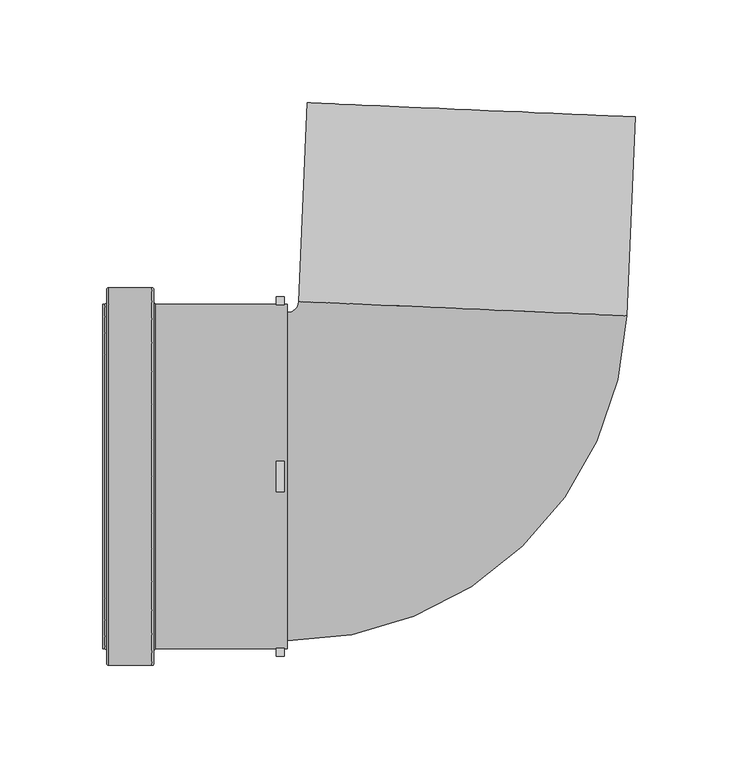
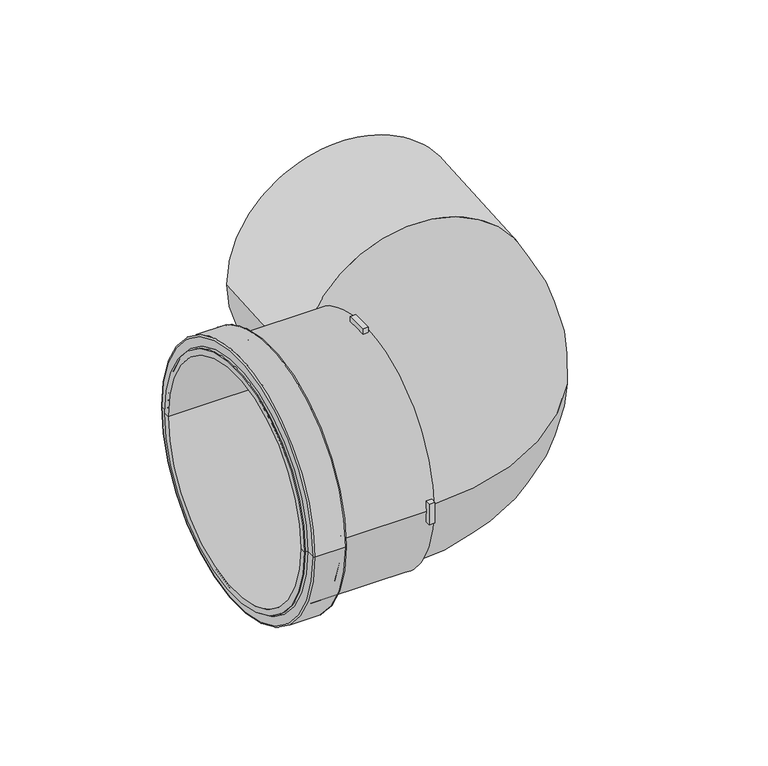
"""IFC4 building model written with IfcOpenShell, lengths in millimetres: pipe fitting geometry, MarleyPlumbingAndDrainage_PipeFitting_dBlue90DegreeBend_VKL : VKL-160-000-90D - 160mm - Blue."""

from ifc_helpers import new_model, si_unit, point, frame, origin, place, context, project, spatial, polyline, circle_curve, ellipse_curve, trimmed, source, transform, mapped, element, save
from ifc_brep_helpers import plane_surface, cylinder_surface, revolved_surface, advanced_brep


def pipe_fitting_395e146a(model_context):
    return source(origin(), model_context, "Body", "AdvancedBrep", [
        advanced_brep(
        [(-162.615232, 92.0, 0.0), (-162.615232, -92.0, 0.0), (-161.615232, -91.0, 0.0), (-161.615232, 91.0, 0.0), (-183.615232, 92.0, 0.0), (-183.615232, -92.0, 0.0), (-184.615232, 91.0, 0.0), (-184.615232, -91.0, 0.0), (-184.615232, 85.0, 0.0), (-184.615232, -85.0, 0.0), (-185.615232, 84.0, 0.0), (-185.615232, -84.0, 0.0), (-186.615232, 80.0, 0.0), (-186.615232, -80.0, 0.0), (-186.615232, -84.0, 0.0), (-186.615232, 84.0, 0.0), (-96.615232, 80.0, 0.0), (-96.615232, -80.0, 0.0), (-96.615232, 84.0, 0.0), (-96.615232, -84.0, 0.0), (-98.115232, 84.0, 0.0), (-98.115232, 83.6645086, 7.5), (-102.115232, 83.6645086, 7.5), (-102.115232, 84.0, 0.0), (-160.615232, 84.0, 0.0), (-160.615232, -84.0, 0.0), (-102.115232, -84.0, 0.0), (-102.115232, -83.6645086, 7.5), (-98.115232, -83.6645086, 7.5), (-98.115232, -84.0, 0.0), (-102.115232, -7.5, 83.6645086), (-102.115232, 7.5, 83.6645086), (-98.115232, 7.5, 83.6645086), (-98.115232, -7.5, 83.6645086), (-98.115232, -83.6645086, -7.5), (-102.115232, -83.6645086, -7.5), (-102.115232, 83.6645086, -7.5), (-98.115232, 83.6645086, -7.5), (-102.115232, 7.5, -83.6645086), (-102.115232, -7.5, -83.6645086), (-98.115232, -7.5, -83.6645086), (-98.115232, 7.5, -83.6645086), (-161.615232, 85.0, 0.0), (-161.615232, -85.0, 0.0), (-102.115232, 87.6798152, 7.5), (-102.115232, 87.6798152, -7.5), (-102.115232, -7.5, 87.6798152), (-102.115232, 7.5, 87.6798152), (-102.115232, -87.6798152, -7.5), (-102.115232, -87.6798152, 7.5), (-102.115232, 7.5, -87.6798152), (-102.115232, -7.5, -87.6798152), (-98.115232, 87.6798152, -7.5), (-98.115232, 87.6798152, 7.5), (-98.115232, 7.5, 87.6798152), (-98.115232, -7.5, 87.6798152), (-98.115232, -87.6798152, 7.5), (-98.115232, -87.6798152, -7.5), (-98.115232, -7.5, -87.6798152), (-98.115232, 7.5, -87.6798152)],
        [
            (0, 1, circle_curve(frame((-162.615232, 0.0, 0.0), z_axis=(1.0, 0.0, 0.0), x_axis=(0.0, -1.0, 0.0)), 92.0)),
            (1, 2, circle_curve(frame((-162.615232, -91.0, 0.0), z_axis=(0.0, 0.0, 1.0), x_axis=(0.0, -1.0, 0.0)), 1.0)),
            (2, 3, circle_curve(frame((-161.615232, 0.0, 0.0), z_axis=(-1.0, 0.0, 0.0), x_axis=(0.0, -1.0, 0.0)), 91.0)),
            (3, 0, circle_curve(frame((-162.615232, 91.0, 0.0), z_axis=(0.0, 0.0, 1.0), x_axis=(0.0, 1.0, 0.0)), 1.0)),
            (1, 0, circle_curve(frame((-162.615232, 0.0, 0.0), z_axis=(1.0, 0.0, 0.0), x_axis=(0.0, -1.0, 0.0)), 92.0)),
            (3, 2, circle_curve(frame((-161.615232, 0.0, 0.0), z_axis=(-1.0, 0.0, 0.0), x_axis=(0.0, -1.0, 0.0)), 91.0)),
            (0, 4),
            (4, 5, circle_curve(frame((-183.615232, 0.0, 0.0), z_axis=(1.0, 0.0, 0.0), x_axis=(0.0, -1.0, 0.0)), 92.0)),
            (5, 1),
            (5, 4, circle_curve(frame((-183.615232, 0.0, 0.0), z_axis=(1.0, 0.0, 0.0), x_axis=(0.0, -1.0, 0.0)), 92.0)),
            (4, 6, circle_curve(frame((-183.615232, 91.0, 0.0), z_axis=(0.0, 0.0, 1.0), x_axis=(0.0, 1.0, 0.0)), 1.0)),
            (6, 7, circle_curve(frame((-184.615232, 0.0, 0.0), z_axis=(1.0, 0.0, 0.0), x_axis=(0.0, -1.0, 0.0)), 91.0)),
            (7, 5, circle_curve(frame((-183.615232, -91.0, 0.0), z_axis=(0.0, 0.0, 1.0), x_axis=(0.0, -1.0, 0.0)), 1.0)),
            (7, 6, circle_curve(frame((-184.615232, 0.0, 0.0), z_axis=(1.0, 0.0, 0.0), x_axis=(0.0, -1.0, 0.0)), 91.0)),
            (6, 8),
            (8, 9, circle_curve(frame((-184.615232, 0.0, 0.0), z_axis=(1.0, 0.0, 0.0), x_axis=(0.0, -1.0, 0.0)), 85.0)),
            (9, 7),
            (9, 8, circle_curve(frame((-184.615232, 0.0, 0.0), z_axis=(1.0, 0.0, 0.0), x_axis=(0.0, -1.0, 0.0)), 85.0)),
            (8, 10, circle_curve(frame((-185.615232, 85.0, 0.0), z_axis=(0.0, 0.0, -1.0), x_axis=(0.0, 1.0, 0.0)), 1.0)),
            (10, 11, circle_curve(frame((-185.615232, 0.0, 0.0), z_axis=(1.0, 0.0, 0.0), x_axis=(0.0, -1.0, 0.0)), 84.0)),
            (11, 9, circle_curve(frame((-185.615232, -85.0, 0.0), z_axis=(0.0, 0.0, -1.0), x_axis=(0.0, -1.0, 0.0)), 1.0)),
            (11, 10, circle_curve(frame((-185.615232, 0.0, 0.0), z_axis=(1.0, 0.0, 0.0), x_axis=(0.0, -1.0, 0.0)), 84.0)),
            (12, 13, circle_curve(frame((-186.615232, 0.0, 0.0), z_axis=(1.0, 0.0, 0.0), x_axis=(0.0, -1.0, 0.0)), 80.0)),
            (13, 14),
            (14, 15, circle_curve(frame((-186.615232, 0.0, 0.0), z_axis=(-1.0, 0.0, 0.0), x_axis=(0.0, -1.0, 0.0)), 84.0)),
            (15, 12),
            (13, 12, circle_curve(frame((-186.615232, 0.0, 0.0), z_axis=(1.0, 0.0, 0.0), x_axis=(0.0, -1.0, 0.0)), 80.0)),
            (15, 14, circle_curve(frame((-186.615232, 0.0, 0.0), z_axis=(-1.0, 0.0, 0.0), x_axis=(0.0, -1.0, 0.0)), 84.0)),
            (12, 16),
            (16, 17, circle_curve(frame((-96.615232, 0.0, 0.0), z_axis=(1.0, 0.0, 0.0), x_axis=(0.0, -1.0, 0.0)), 80.0)),
            (17, 13),
            (17, 16, circle_curve(frame((-96.615232, 0.0, 0.0), z_axis=(1.0, 0.0, 0.0), x_axis=(0.0, -1.0, 0.0)), 80.0)),
            (16, 18),
            (18, 19, circle_curve(frame((-96.615232, 0.0, 0.0), z_axis=(1.0, 0.0, 0.0), x_axis=(0.0, -1.0, 0.0)), 84.0)),
            (19, 17),
            (19, 18, circle_curve(frame((-96.615232, 0.0, 0.0), z_axis=(1.0, 0.0, 0.0), x_axis=(0.0, -1.0, 0.0)), 84.0)),
            (18, 20),
            (20, 21, circle_curve(frame((-98.115232, 0.0, 0.0), z_axis=(1.0, 0.0, 0.0), x_axis=(0.0, -1.0, 0.0)), 84.0)),
            (21, 22),
            (22, 23, circle_curve(frame((-102.115232, 0.0, 0.0), z_axis=(-1.0, 0.0, 0.0), x_axis=(0.0, -1.0, 0.0)), 84.0)),
            (23, 24),
            (24, 25, circle_curve(frame((-160.615232, 0.0, 0.0), z_axis=(1.0, 0.0, 0.0), x_axis=(0.0, -1.0, 0.0)), 84.0)),
            (25, 26),
            (26, 27, circle_curve(frame((-102.115232, 0.0, 0.0), z_axis=(-1.0, 0.0, 0.0), x_axis=(0.0, -1.0, 0.0)), 84.0)),
            (27, 28),
            (28, 29, circle_curve(frame((-98.115232, 0.0, 0.0), z_axis=(1.0, 0.0, 0.0), x_axis=(0.0, -1.0, 0.0)), 84.0)),
            (29, 19),
            (30, 31, circle_curve(frame((-102.115232, 0.0, 0.0), z_axis=(-1.0, 0.0, 0.0), x_axis=(0.0, -1.0, 0.0)), 84.0)),
            (31, 32),
            (32, 33, circle_curve(frame((-98.115232, 0.0, 0.0), z_axis=(1.0, 0.0, 0.0), x_axis=(0.0, -1.0, 0.0)), 84.0)),
            (33, 30),
            (29, 34, circle_curve(frame((-98.115232, 0.0, 0.0), z_axis=(1.0, 0.0, 0.0), x_axis=(0.0, -1.0, 0.0)), 84.0)),
            (34, 35),
            (35, 26, circle_curve(frame((-102.115232, 0.0, 0.0), z_axis=(-1.0, 0.0, 0.0), x_axis=(0.0, -1.0, 0.0)), 84.0)),
            (25, 24, circle_curve(frame((-160.615232, 0.0, 0.0), z_axis=(1.0, 0.0, 0.0), x_axis=(0.0, -1.0, 0.0)), 84.0)),
            (23, 36, circle_curve(frame((-102.115232, 0.0, 0.0), z_axis=(-1.0, 0.0, 0.0), x_axis=(0.0, -1.0, 0.0)), 84.0)),
            (36, 37),
            (37, 20, circle_curve(frame((-98.115232, 0.0, 0.0), z_axis=(1.0, 0.0, 0.0), x_axis=(0.0, -1.0, 0.0)), 84.0)),
            (38, 39, circle_curve(frame((-102.115232, 0.0, 0.0), z_axis=(-1.0, 0.0, 0.0), x_axis=(0.0, -1.0, 0.0)), 84.0)),
            (39, 40),
            (40, 41, circle_curve(frame((-98.115232, 0.0, 0.0), z_axis=(1.0, 0.0, 0.0), x_axis=(0.0, -1.0, 0.0)), 84.0)),
            (41, 38),
            (24, 42, circle_curve(frame((-160.615232, 85.0, 0.0), z_axis=(0.0, 0.0, -1.0), x_axis=(0.0, 1.0, 0.0)), 1.0)),
            (42, 43, circle_curve(frame((-161.615232, 0.0, 0.0), z_axis=(1.0, 0.0, 0.0), x_axis=(0.0, -1.0, 0.0)), 85.0)),
            (43, 25, circle_curve(frame((-160.615232, -85.0, 0.0), z_axis=(0.0, 0.0, -1.0), x_axis=(0.0, -1.0, 0.0)), 1.0)),
            (43, 42, circle_curve(frame((-161.615232, 0.0, 0.0), z_axis=(1.0, 0.0, 0.0), x_axis=(0.0, -1.0, 0.0)), 85.0)),
            (2, 43),
            (42, 3),
            (10, 15),
            (14, 11),
            (22, 44),
            (44, 45, circle_curve(frame((-102.115232, 0.0, 0.0), z_axis=(-1.0, 0.0, 0.0), x_axis=(0.0, -1.0, 0.0)), 88.0)),
            (45, 36),
            (30, 46),
            (46, 47, circle_curve(frame((-102.115232, 0.0, 0.0), z_axis=(-1.0, 0.0, 0.0), x_axis=(0.0, -1.0, 0.0)), 88.0)),
            (47, 31),
            (35, 48),
            (48, 49, circle_curve(frame((-102.115232, 0.0, 0.0), z_axis=(-1.0, 0.0, 0.0), x_axis=(0.0, -1.0, 0.0)), 88.0)),
            (49, 27),
            (38, 50),
            (50, 51, circle_curve(frame((-102.115232, 0.0, 0.0), z_axis=(-1.0, 0.0, 0.0), x_axis=(0.0, -1.0, 0.0)), 88.0)),
            (51, 39),
            (37, 52),
            (52, 53, circle_curve(frame((-98.115232, 0.0, 0.0), z_axis=(1.0, 0.0, 0.0), x_axis=(0.0, -1.0, 0.0)), 88.0)),
            (53, 21),
            (32, 54),
            (54, 55, circle_curve(frame((-98.115232, 0.0, 0.0), z_axis=(1.0, 0.0, 0.0), x_axis=(0.0, -1.0, 0.0)), 88.0)),
            (55, 33),
            (28, 56),
            (56, 57, circle_curve(frame((-98.115232, 0.0, 0.0), z_axis=(1.0, 0.0, 0.0), x_axis=(0.0, -1.0, 0.0)), 88.0)),
            (57, 34),
            (40, 58),
            (58, 59, circle_curve(frame((-98.115232, 0.0, 0.0), z_axis=(1.0, 0.0, 0.0), x_axis=(0.0, -1.0, 0.0)), 88.0)),
            (59, 41),
            (53, 44),
            (52, 45),
            (55, 46),
            (54, 47),
            (57, 48),
            (56, 49),
            (59, 50),
            (58, 51),
        ],
        [
            revolved_surface(trimmed(ellipse_curve(frame((-162.615232, -91.0, 0.0), z_axis=(0.0, 0.0, -1.0), x_axis=(0.0, -1.0, 0.0)), 1.0, 1.0), [point((-161.615232, -91.0, 0.0))], [point((-162.615232, -92.0, 0.0))], True, "CARTESIAN"), (-241.615232, 0.0, 0.0), (-1.0, 0.0, 0.0)),
            cylinder_surface(frame((-241.615232, 0.0, 0.0), z_axis=(-1.0, 0.0, 0.0), x_axis=(0.0, -1.0, 0.0)), 92.0),
            revolved_surface(trimmed(ellipse_curve(frame((-183.615232, -91.0, 0.0), z_axis=(0.0, 0.0, -1.0), x_axis=(0.0, -1.0, 0.0)), 1.0, 1.0), [point((-183.615232, -92.0, 0.0))], [point((-184.615232, -91.0, 0.0))], True, "CARTESIAN"), (-241.615232, 0.0, 0.0), (-1.0, 0.0, 0.0)),
            plane_surface(frame((-184.615232, 0.0, 0.0), z_axis=(-1.0, 0.0, 0.0), x_axis=(0.0, -1.0, 0.0))),
            revolved_surface(trimmed(ellipse_curve(frame((-185.615232, -85.0, 0.0), z_axis=(0.0, 0.0, 1.0), x_axis=(0.0, -1.0, 0.0)), 1.0, 1.0), [point((-184.615232, -85.0, 0.0))], [point((-185.615232, -84.0, 0.0))], True, "CARTESIAN"), (-241.615232, 0.0, 0.0), (-1.0, 0.0, 0.0)),
            plane_surface(frame((-186.615232, 0.0, 0.0), z_axis=(-1.0, 0.0, 0.0), x_axis=(0.0, -1.0, 0.0))),
            revolved_surface(polyline([(-186.615232, -80.0, 0.0), (-96.61523199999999, -80.0, 0.0)]), (-241.615232, 0.0, 0.0), (-1.0, 0.0, 0.0)),
            plane_surface(frame((-96.615232, 0.0, 0.0), z_axis=(1.0, 0.0, 0.0), x_axis=(0.0, -1.0, 0.0))),
            cylinder_surface(frame((-241.615232, 0.0, 0.0), z_axis=(-1.0, 0.0, 0.0), x_axis=(0.0, -1.0, 0.0)), 84.0),
            revolved_surface(trimmed(ellipse_curve(frame((-160.615232, -85.0, 0.0), z_axis=(0.0, 0.0, 1.0), x_axis=(0.0, -1.0, 0.0)), 1.0, 1.0), [point((-160.615232, -84.0, 0.0))], [point((-161.615232, -85.0, 0.0))], True, "CARTESIAN"), (-241.615232, 0.0, 0.0), (-1.0, 0.0, 0.0)),
            plane_surface(frame((-161.615232, 0.0, 0.0), z_axis=(1.0, 0.0, 0.0), x_axis=(0.0, -1.0, 0.0))),
            plane_surface(frame((-102.115232, -84.0, 0.0), z_axis=(-1.0, 0.0, 0.0), x_axis=(0.0, 0.0, -1.0))),
            plane_surface(frame((-98.115232, -84.0, 0.0), z_axis=(1.0, 0.0, 0.0), x_axis=(0.0, 0.0, 1.0))),
            plane_surface(frame((-102.115232, 83.6645086, 7.5), z_axis=(0.0, 0.0, 1.0), x_axis=(1.0, 0.0, 0.0))),
            cylinder_surface(frame((-98.115232, 0.0, 0.0), z_axis=(-1.0, 0.0, 0.0), x_axis=(0.0, -1.0, 0.0)), 88.0),
            plane_surface(frame((-102.115232, 87.6798152, -7.5), z_axis=(0.0, 0.0, -1.0), x_axis=(1.0, 0.0, 0.0))),
            plane_surface(frame((-102.115232, -7.5, 83.6645086), z_axis=(0.0, -1.0, 0.0), x_axis=(1.0, 0.0, 0.0))),
            cylinder_surface(frame((-96.615232, 0.0, 0.0), z_axis=(-1.0, 0.0, 0.0), x_axis=(0.0, -1.0, 0.0)), 88.0),
            plane_surface(frame((-102.115232, 7.5, 87.6798152), z_axis=(0.0, 1.0, 0.0), x_axis=(1.0, 0.0, 0.0))),
            plane_surface(frame((-102.115232, -83.6645086, -7.5), z_axis=(0.0, 0.0, -1.0), x_axis=(1.0, 0.0, 0.0))),
            plane_surface(frame((-102.115232, -87.6798152, 7.5), z_axis=(0.0, 0.0, 1.0), x_axis=(1.0, 0.0, 0.0))),
            plane_surface(frame((-102.115232, 7.5, -83.6645086), z_axis=(0.0, 1.0, 0.0), x_axis=(1.0, 0.0, 0.0))),
            plane_surface(frame((-102.115232, -7.5, -87.6798152), z_axis=(0.0, -1.0, 0.0), x_axis=(1.0, 0.0, 0.0))),
        ],
        [
            (0, [[1, 2, 3, 4]]),
            (0, [[-2, 5, -4, 6]]),
            (1, [[-1, 7, 8, 9]]),
            (1, [[-5, -9, 10, -7]]),
            (2, [[-8, 11, 12, 13]]),
            (2, [[-10, -13, 14, -11]]),
            (3, [[-12, 15, 16, 17]]),
            (3, [[-14, -17, 18, -15]]),
            (4, [[-16, 19, 20, 21]]),
            (4, [[-18, -21, 22, -19]]),
            (5, [[23, 24, 25, 26]]),
            (5, [[-24, 27, -26, 28]]),
            (6, [[-23, 29, 30, 31]]),
            (6, [[-27, -31, 32, -29]]),
            (7, [[-30, 33, 34, 35]]),
            (7, [[-32, -35, 36, -33]]),
            (8, [[-34, 37, 38, 39, 40, 41, 42, 43, 44, 45, 46, 47], [48, 49, 50, 51]]),
            (8, [[-36, -47, 52, 53, 54, -43, 55, -41, 56, 57, 58, -37], [59, 60, 61, 62]]),
            (9, [[-42, 63, 64, 65]]),
            (9, [[-55, -65, 66, -63]]),
            (10, [[-3, 67, -64, 68]]),
            (10, [[-6, -68, -66, -67]]),
            (8, [[-20, 69, -25, 70]]),
            (8, [[-22, -70, -28, -69]]),
            (11, [[71, 72, 73, -56, -40]]),
            (11, [[74, 75, 76, -48]]),
            (11, [[77, 78, 79, -44, -54]]),
            (11, [[80, 81, 82, -59]]),
            (12, [[83, 84, 85, -38, -58]]),
            (12, [[86, 87, 88, -50]]),
            (12, [[89, 90, 91, -52, -46]]),
            (12, [[92, 93, 94, -61]]),
            (13, [[-71, -39, -85, 95]]),
            (14, [[-72, -95, -84, 96]]),
            (15, [[-73, -96, -83, -57]]),
            (16, [[-74, -51, -88, 97]]),
            (17, [[-75, -97, -87, 98]]),
            (18, [[-76, -98, -86, -49]]),
            (19, [[-77, -53, -91, 99]]),
            (17, [[-78, -99, -90, 100]]),
            (20, [[-79, -100, -89, -45]]),
            (21, [[-80, -62, -94, 101]]),
            (17, [[-81, -101, -93, 102]]),
            (22, [[-82, -102, -92, -60]]),
        ],
    ),
        advanced_brep(
        [(-96.615232, -80.0, 0.0), (-96.615232, 80.0, 0.0), (-91.1204668, 85.2600934, 0.0), (68.7272486, 78.2809914, 0.0), (72.9583292, 175.1886689, 0.0), (-86.8893862, 182.1677709, 0.0)],
        [
            (0, 1, circle_curve(frame((-96.615232, 0.0, 0.0), z_axis=(-1.0, 0.0, 0.0), x_axis=(0.0, 1.0, 0.0)), 80.0)),
            (1, 0, circle_curve(frame((-96.615232, 0.0, 0.0), z_axis=(-1.0, 0.0, 0.0), x_axis=(0.0, 1.0, 0.0)), 80.0)),
            (2, 1, circle_curve(frame((-96.615232, 85.5, 0.0), z_axis=(0.0, 0.0, -1.0), x_axis=(0.0, -1.0, 0.0)), 5.5)),
            (0, 3, circle_curve(frame((-96.615232, 85.5, 0.0), z_axis=(0.0, 0.0, 1.0), x_axis=(0.0, -1.0, 0.0)), 165.5)),
            (3, 2, circle_curve(frame((-11.1966091, 81.7705424, 0.0), z_axis=(-0.0436193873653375, -0.9990482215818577, 0.0), x_axis=(-0.9990482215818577, 0.0436193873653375, 0.0)), 80.0)),
            (2, 3, circle_curve(frame((-11.1966091, 81.7705424, 0.0), z_axis=(-0.0436193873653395, -0.9990482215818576, 0.0), x_axis=(-0.9990482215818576, 0.0436193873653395, 0.0)), 80.0)),
            (4, 5, circle_curve(frame((-6.9655285, 178.6782199, 0.0), z_axis=(0.0436193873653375, 0.9990482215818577, 0.0), x_axis=(-0.9990482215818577, 0.0436193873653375, 0.0)), 80.0)),
            (5, 4, circle_curve(frame((-6.9655285, 178.6782199, 0.0), z_axis=(0.0436193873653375, 0.9990482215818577, 0.0), x_axis=(-0.9990482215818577, 0.0436193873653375, 0.0)), 80.0)),
            (3, 4),
            (5, 2),
        ],
        [
            plane_surface(frame((-96.615232, 0.0, 0.0), z_axis=(-1.0, 0.0, 0.0), x_axis=(0.0, 0.0, 1.0))),
            revolved_surface(trimmed(ellipse_curve(frame((-96.615232, 0.0, 0.0), z_axis=(-1.0, 0.0, 0.0), x_axis=(0.0, 1.0, 0.0)), 80.0, 80.0), [point((-96.615232, -80.0, 0.0))], [point((-96.615232, 80.0, 0.0))], True, "CARTESIAN"), (-96.615232, 85.5, 0.0), (0.0, 0.0, 1.0)),
            revolved_surface(trimmed(ellipse_curve(frame((-96.615232, 0.0, 0.0), z_axis=(-1.0, 0.0, 0.0), x_axis=(0.0, 1.0, 0.0)), 80.0, 80.0), [point((-96.615232, 80.0, 0.0))], [point((-96.615232, -80.0, 0.0))], True, "CARTESIAN"), (-96.615232, 85.5, 0.0), (0.0, 0.0, 1.0)),
            plane_surface(frame((-6.9655285, 178.6782199, 0.0), z_axis=(0.0436193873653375, 0.9990482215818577, 0.0), x_axis=(0.0, 0.0, 1.0))),
            cylinder_surface(frame((-11.1966091, 81.7705424, 0.0), z_axis=(-0.0436193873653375, -0.9990482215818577, 0.0), x_axis=(-0.9990482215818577, 0.0436193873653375, 0.0)), 80.0),
        ],
        [
            (0, [[1, 2]]),
            (1, [[3, -1, 4, 5]]),
            (2, [[-4, -2, -3, 6]]),
            (3, [[7, 8]]),
            (4, [[-5, 9, -8, 10]]),
            (4, [[-6, -10, -7, -9]]),
        ],
    ),
    ])


if __name__ == "__main__":
    model = new_model("IFC4")
    model_context = context("Model", 3, world=origin())
    ifc_project = project(units=[si_unit("LENGTHUNIT", "METRE", prefix="MILLI")], contexts=[model_context])
    site = spatial("IfcSite", under=ifc_project)
    building = spatial("IfcBuilding", under=site)
    placement = place(None, origin())
    pipe_fitting_shape = pipe_fitting_395e146a(model_context)
    element("IfcPipeFitting", 1, ObjectType="MarleyPlumbingAndDrainage_PipeFitting_dBlue90DegreeBend_VKL : VKL-160-000-90D - 160mm - Blue", at=placement, inside=building, context=model_context, shape_type="MappedRepresentation", body=[
        mapped(pipe_fitting_shape, transform((0.0, 0.0, 0.0), x_axis=(1.0, 0.0, 0.0), y_axis=(0.0, 1.0, 0.0), z_axis=(0.0, 0.0, 1.0))),
    ])
    save(model, "model.ifc")
